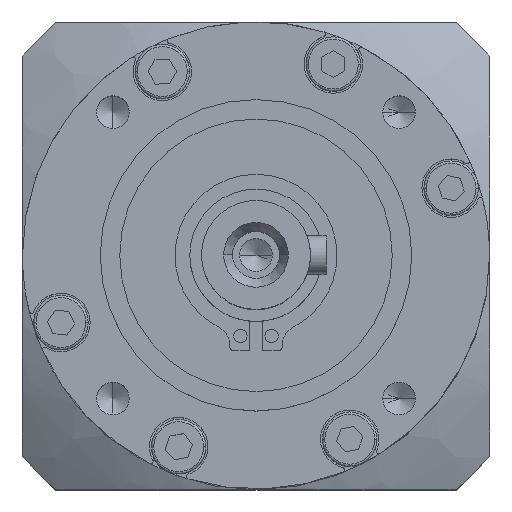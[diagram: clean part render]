
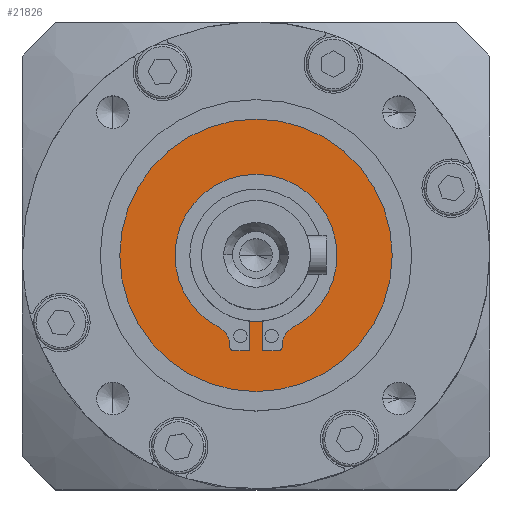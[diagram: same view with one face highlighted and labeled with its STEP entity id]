
A CAD part, top view. The second image highlights one B-rep face of the part: STEP entity #21826.
In plain terms, the highlighted planar face has unit normal (0, 0, 1).
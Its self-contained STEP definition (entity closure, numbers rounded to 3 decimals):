
#421 = CARTESIAN_POINT ( 'NONE',  ( -0.85, -12.257, -1. ) ) ;
#748 = CARTESIAN_POINT ( 'NONE',  ( 0., 0., -1. ) ) ;
#814 = EDGE_CURVE ( 'NONE', #3008, #20658, #7848, .T. ) ;
#2170 = EDGE_CURVE ( 'NONE', #30636, #20934, #7764, .T. ) ;
#2351 = VERTEX_POINT ( 'NONE', #15240 ) ;
#2587 = DIRECTION ( 'NONE',  ( -1., 0., 0. ) ) ;
#3008 = VERTEX_POINT ( 'NONE', #10408 ) ;
#3068 = CARTESIAN_POINT ( 'NONE',  ( 3.35, -11.497, -1. ) ) ;
#3224 = DIRECTION ( 'NONE',  ( 0., 0., 1. ) ) ;
#3687 = CARTESIAN_POINT ( 'NONE',  ( 0., 0., -1. ) ) ;
#4069 = DIRECTION ( 'NONE',  ( 1., 0., 0. ) ) ;
#4113 = DIRECTION ( 'NONE',  ( 1., 0., 0. ) ) ;
#4607 = EDGE_CURVE ( 'NONE', #14336, #37562, #8767, .T. ) ;
#4771 = ORIENTED_EDGE ( 'NONE', *, *, #28159, .F. ) ;
#4773 = CARTESIAN_POINT ( 'NONE',  ( 0., 0., -1. ) ) ;
#5299 = CARTESIAN_POINT ( 'NONE',  ( -3.35, -11.757, -1. ) ) ;
#5607 = CARTESIAN_POINT ( 'NONE',  ( -0.85, -8.457, -1. ) ) ;
#5779 = EDGE_CURVE ( 'NONE', #36976, #3008, #7104, .T. ) ;
#5792 = AXIS2_PLACEMENT_3D ( 'NONE', #12422, #35843, #15797 ) ;
#6762 = AXIS2_PLACEMENT_3D ( 'NONE', #32140, #41931, #15456 ) ;
#7091 = DIRECTION ( 'NONE',  ( -1., 0., 0. ) ) ;
#7104 = CIRCLE ( 'NONE', #11588, 10.4 ) ;
#7115 = CIRCLE ( 'NONE', #32896, 0.5 ) ;
#7300 = VERTEX_POINT ( 'NONE', #16701 ) ;
#7382 = AXIS2_PLACEMENT_3D ( 'NONE', #23327, #3224, #26703 ) ;
#7582 = LINE ( 'NONE', #14068, #42201 ) ;
#7764 = CIRCLE ( 'NONE', #31998, 2.5 ) ;
#7848 = CIRCLE ( 'NONE', #42063, 10.4 ) ;
#8166 = ORIENTED_EDGE ( 'NONE', *, *, #14793, .F. ) ;
#8177 = DIRECTION ( 'NONE',  ( -1., 0., 0. ) ) ;
#8407 = EDGE_LOOP ( 'NONE', ( #34215, #24425 ) ) ;
#8694 = PLANE ( 'NONE',  #6762 ) ;
#8767 = LINE ( 'NONE', #33691, #34440 ) ;
#9128 = ORIENTED_EDGE ( 'NONE', *, *, #9846, .F. ) ;
#9536 = FACE_OUTER_BOUND ( 'NONE', #8407, .T. ) ;
#9846 = EDGE_CURVE ( 'NONE', #20934, #36976, #38492, .T. ) ;
#10408 = CARTESIAN_POINT ( 'NONE',  ( -10.4, 0., -1. ) ) ;
#10907 = DIRECTION ( 'NONE',  ( 0., 0., -1. ) ) ;
#11584 = VERTEX_POINT ( 'NONE', #27532 ) ;
#11588 = AXIS2_PLACEMENT_3D ( 'NONE', #3687, #27180, #7091 ) ;
#11719 = ORIENTED_EDGE ( 'NONE', *, *, #31080, .F. ) ;
#12343 = CARTESIAN_POINT ( 'NONE',  ( 0., 0., -1. ) ) ;
#12422 = CARTESIAN_POINT ( 'NONE',  ( 0., 0., -1. ) ) ;
#12467 = ORIENTED_EDGE ( 'NONE', *, *, #28130, .F. ) ;
#13017 = ORIENTED_EDGE ( 'NONE', *, *, #4607, .F. ) ;
#13658 = CARTESIAN_POINT ( 'NONE',  ( 3.35, 0., -1. ) ) ;
#13827 = VECTOR ( 'NONE', #41435, 1000. ) ;
#14068 = CARTESIAN_POINT ( 'NONE',  ( 0., -12.257, -1. ) ) ;
#14336 = VERTEX_POINT ( 'NONE', #23603 ) ;
#14793 = EDGE_CURVE ( 'NONE', #23654, #30636, #43473, .T. ) ;
#14891 = LINE ( 'NONE', #38080, #13827 ) ;
#15240 = CARTESIAN_POINT ( 'NONE',  ( 2.85, -12.257, -1. ) ) ;
#15336 = CARTESIAN_POINT ( 'NONE',  ( 10.4, 0., -1. ) ) ;
#15456 = DIRECTION ( 'NONE',  ( -1., 0., 0. ) ) ;
#15725 = DIRECTION ( 'NONE',  ( 1., 0., 0. ) ) ;
#15797 = DIRECTION ( 'NONE',  ( -1., 0., 0. ) ) ;
#16162 = EDGE_CURVE ( 'NONE', #33232, #27881, #37619, .T. ) ;
#16701 = CARTESIAN_POINT ( 'NONE',  ( 0.85, -12.257, -1. ) ) ;
#17050 = DIRECTION ( 'NONE',  ( 0., 1., 0. ) ) ;
#17223 = CIRCLE ( 'NONE', #38673, 2.5 ) ;
#17302 = DIRECTION ( 'NONE',  ( 0., 1., 0. ) ) ;
#17332 = CARTESIAN_POINT ( 'NONE',  ( -3.35, 0., -1. ) ) ;
#17443 = CARTESIAN_POINT ( 'NONE',  ( -3.35, -11.497, -1. ) ) ;
#17588 = LINE ( 'NONE', #37321, #35395 ) ;
#17875 = DIRECTION ( 'NONE',  ( 0., 0., -1. ) ) ;
#18766 = DIRECTION ( 'NONE',  ( 0., 0., 1. ) ) ;
#20277 = EDGE_CURVE ( 'NONE', #35378, #11584, #21046, .T. ) ;
#20658 = VERTEX_POINT ( 'NONE', #26967 ) ;
#20934 = VERTEX_POINT ( 'NONE', #31514 ) ;
#20993 = CIRCLE ( 'NONE', #36592, 8.5 ) ;
#21046 = CIRCLE ( 'NONE', #36466, 17.5 ) ;
#21826 = ADVANCED_FACE ( 'NONE', ( #43044, #9536 ), #8694, .F. ) ;
#22684 = DIRECTION ( 'NONE',  ( 0., 0., 1. ) ) ;
#23284 = ORIENTED_EDGE ( 'NONE', *, *, #2170, .F. ) ;
#23327 = CARTESIAN_POINT ( 'NONE',  ( 2.85, -11.757, -1. ) ) ;
#23603 = CARTESIAN_POINT ( 'NONE',  ( -2.85, -12.257, -1. ) ) ;
#23654 = VERTEX_POINT ( 'NONE', #28861 ) ;
#24189 = DIRECTION ( 'NONE',  ( 0., 0., 1. ) ) ;
#24298 = CIRCLE ( 'NONE', #28727, 17.5 ) ;
#24425 = ORIENTED_EDGE ( 'NONE', *, *, #20277, .T. ) ;
#26703 = DIRECTION ( 'NONE',  ( -1., 0., 0. ) ) ;
#26967 = CARTESIAN_POINT ( 'NONE',  ( -4.716, -9.269, -1. ) ) ;
#27180 = DIRECTION ( 'NONE',  ( 0., 0., 1. ) ) ;
#27441 = DIRECTION ( 'NONE',  ( 0., -1., 0. ) ) ;
#27532 = CARTESIAN_POINT ( 'NONE',  ( 17.5, 0., -1. ) ) ;
#27881 = VERTEX_POINT ( 'NONE', #5299 ) ;
#27889 = ORIENTED_EDGE ( 'NONE', *, *, #5779, .F. ) ;
#28130 = EDGE_CURVE ( 'NONE', #37562, #42330, #17588, .T. ) ;
#28159 = EDGE_CURVE ( 'NONE', #7300, #2351, #7582, .T. ) ;
#28257 = DIRECTION ( 'NONE',  ( 0., 0., 1. ) ) ;
#28727 = AXIS2_PLACEMENT_3D ( 'NONE', #12343, #35758, #15725 ) ;
#28763 = VECTOR ( 'NONE', #27441, 1000. ) ;
#28861 = CARTESIAN_POINT ( 'NONE',  ( 3.35, -11.757, -1. ) ) ;
#29260 = ORIENTED_EDGE ( 'NONE', *, *, #814, .F. ) ;
#29277 = EDGE_CURVE ( 'NONE', #33324, #7300, #14891, .T. ) ;
#30636 = VERTEX_POINT ( 'NONE', #3068 ) ;
#30961 = CARTESIAN_POINT ( 'NONE',  ( -5.85, -11.497, -1. ) ) ;
#31080 = EDGE_CURVE ( 'NONE', #42330, #33324, #20993, .T. ) ;
#31514 = CARTESIAN_POINT ( 'NONE',  ( 4.716, -9.269, -1. ) ) ;
#31998 = AXIS2_PLACEMENT_3D ( 'NONE', #37913, #17875, #41286 ) ;
#32140 = CARTESIAN_POINT ( 'NONE',  ( 0., 0., -1. ) ) ;
#32863 = ORIENTED_EDGE ( 'NONE', *, *, #16162, .F. ) ;
#32896 = AXIS2_PLACEMENT_3D ( 'NONE', #38818, #18766, #42183 ) ;
#33232 = VERTEX_POINT ( 'NONE', #17443 ) ;
#33324 = VERTEX_POINT ( 'NONE', #34864 ) ;
#33691 = CARTESIAN_POINT ( 'NONE',  ( 0., -12.257, -1. ) ) ;
#33804 = ORIENTED_EDGE ( 'NONE', *, *, #29277, .F. ) ;
#34215 = ORIENTED_EDGE ( 'NONE', *, *, #41400, .T. ) ;
#34333 = DIRECTION ( 'NONE',  ( -1., 0., 0. ) ) ;
#34440 = VECTOR ( 'NONE', #40415, 1000. ) ;
#34794 = EDGE_CURVE ( 'NONE', #20658, #33232, #17223, .T. ) ;
#34864 = CARTESIAN_POINT ( 'NONE',  ( 0.85, -8.457, -1. ) ) ;
#35378 = VERTEX_POINT ( 'NONE', #38238 ) ;
#35395 = VECTOR ( 'NONE', #17302, 1000. ) ;
#35414 = EDGE_LOOP ( 'NONE', ( #13017, #42630, #32863, #37379, #29260, #27889, #9128, #23284, #8166, #38655, #4771, #33804, #11719, #12467 ) ) ;
#35758 = DIRECTION ( 'NONE',  ( 0., 0., 1. ) ) ;
#35843 = DIRECTION ( 'NONE',  ( 0., 0., 1. ) ) ;
#36466 = AXIS2_PLACEMENT_3D ( 'NONE', #748, #24189, #4113 ) ;
#36592 = AXIS2_PLACEMENT_3D ( 'NONE', #42751, #22684, #2587 ) ;
#36976 = VERTEX_POINT ( 'NONE', #15336 ) ;
#37321 = CARTESIAN_POINT ( 'NONE',  ( -0.85, 0., -1. ) ) ;
#37379 = ORIENTED_EDGE ( 'NONE', *, *, #34794, .F. ) ;
#37562 = VERTEX_POINT ( 'NONE', #421 ) ;
#37619 = LINE ( 'NONE', #17332, #28763 ) ;
#37913 = CARTESIAN_POINT ( 'NONE',  ( 5.85, -11.497, -1. ) ) ;
#38080 = CARTESIAN_POINT ( 'NONE',  ( 0.85, 0., -1. ) ) ;
#38238 = CARTESIAN_POINT ( 'NONE',  ( -17.5, 0., -1. ) ) ;
#38492 = CIRCLE ( 'NONE', #5792, 10.4 ) ;
#38655 = ORIENTED_EDGE ( 'NONE', *, *, #42493, .F. ) ;
#38673 = AXIS2_PLACEMENT_3D ( 'NONE', #30961, #10907, #34333 ) ;
#38818 = CARTESIAN_POINT ( 'NONE',  ( -2.85, -11.757, -1. ) ) ;
#39606 = EDGE_CURVE ( 'NONE', #27881, #14336, #7115, .T. ) ;
#39962 = CIRCLE ( 'NONE', #7382, 0.5 ) ;
#40415 = DIRECTION ( 'NONE',  ( 1., 0., 0. ) ) ;
#41286 = DIRECTION ( 'NONE',  ( -1., 0., 0. ) ) ;
#41400 = EDGE_CURVE ( 'NONE', #11584, #35378, #24298, .T. ) ;
#41435 = DIRECTION ( 'NONE',  ( 0., -1., 0. ) ) ;
#41931 = DIRECTION ( 'NONE',  ( 0., 0., -1. ) ) ;
#42063 = AXIS2_PLACEMENT_3D ( 'NONE', #4773, #28257, #8177 ) ;
#42183 = DIRECTION ( 'NONE',  ( -1., 0., 0. ) ) ;
#42201 = VECTOR ( 'NONE', #4069, 1000. ) ;
#42330 = VERTEX_POINT ( 'NONE', #5607 ) ;
#42429 = VECTOR ( 'NONE', #17050, 1000. ) ;
#42493 = EDGE_CURVE ( 'NONE', #2351, #23654, #39962, .T. ) ;
#42630 = ORIENTED_EDGE ( 'NONE', *, *, #39606, .F. ) ;
#42751 = CARTESIAN_POINT ( 'NONE',  ( 0., 0., -1. ) ) ;
#43044 = FACE_BOUND ( 'NONE', #35414, .T. ) ;
#43473 = LINE ( 'NONE', #13658, #42429 ) ;
